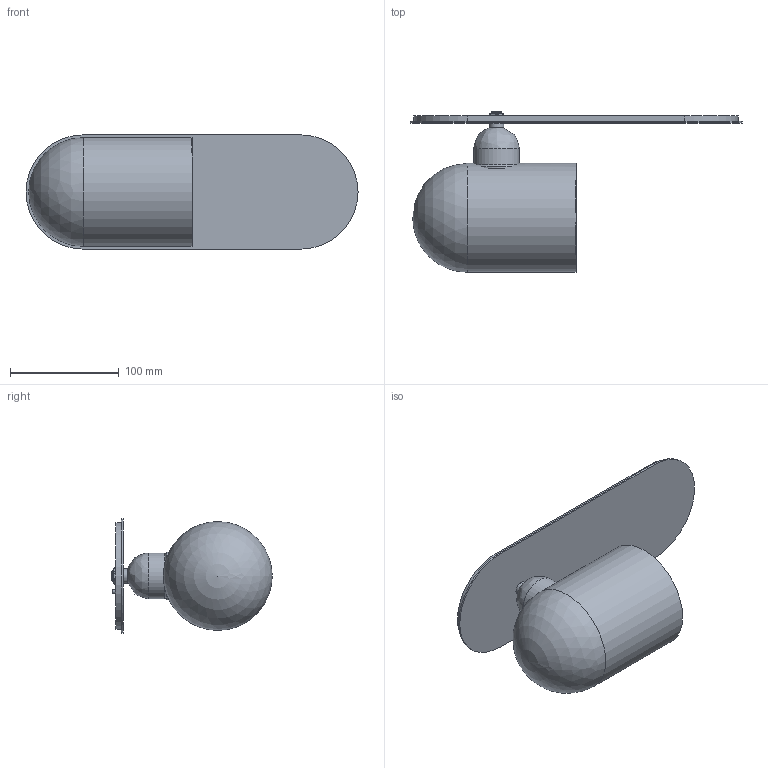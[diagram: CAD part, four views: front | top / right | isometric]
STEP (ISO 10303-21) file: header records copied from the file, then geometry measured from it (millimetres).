
FILE_DESCRIPTION(/* description */ (''),/* implementation_level */ '2;1');
FILE_NAME(/* name */ '',/* time_stamp */ '2026-07-29T12:06:52+02:00',/* author */ ('Lukasz'),/* organization */ (''),/* preprocessor_version */ 'ST-DEVELOPER v20.1',/* originating_system */ 'Autodesk Inventor 2027',/* authorisation */ '');
FILE_SCHEMA (('AUTOMOTIVE_DESIGN { 1 0 10303 214 3 1 1 }'));
Length unit declared in the file: millimetre
Products named in the file (1): Część3
Bounding box: 305 x 147.35 x 105 mm (x, y, z)
Volume: 1275913.3 mm3; surface area: 184309.2 mm2
Topology: 10 solids, 10 shells, 68 faces, 129 edges, 81 vertices
Faces by surface type: plane 37, cylinder 15, cone 12, bspline 3, sphere 1
Full cylindrical faces by diameter (mm): 7 x1, 9 x1, 10 x1, 13 x1, 37 x1, 42 x1, 44 x1, 100 x1
Entity records: 3205 total; most frequent: CARTESIAN_POINT 1702, DIRECTION 285, ORIENTED_EDGE 256, EDGE_CURVE 128, AXIS2_PLACEMENT_3D 117, VERTEX_POINT 81, STYLED_ITEM 78, EDGE_LOOP 71
